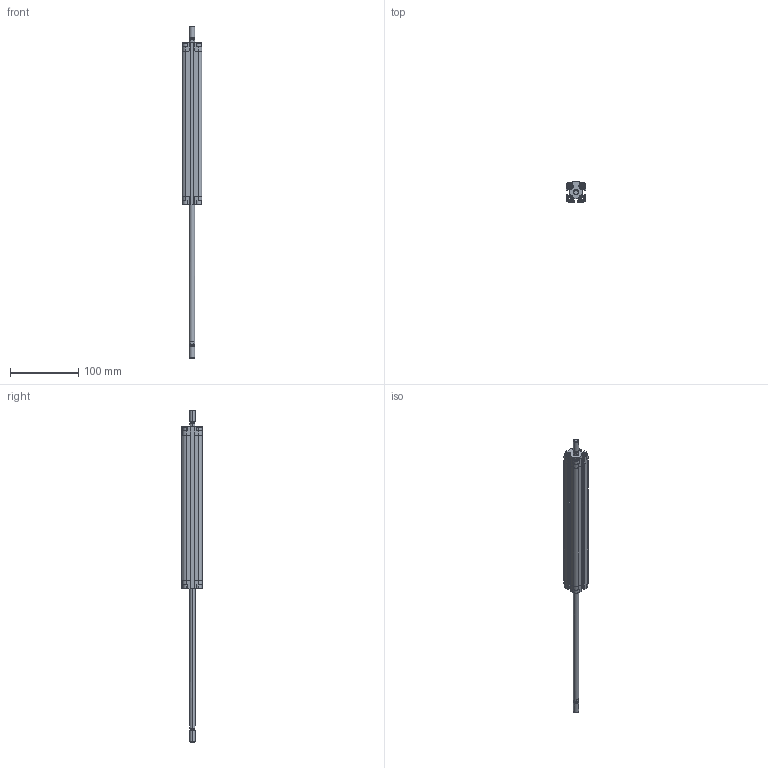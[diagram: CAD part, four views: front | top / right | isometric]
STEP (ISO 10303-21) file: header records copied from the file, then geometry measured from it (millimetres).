
FILE_DESCRIPTION (( 'STEP AP203' ), '1' );
FILE_NAME ('CDVU16-200M-P.STEP', '2020-07-21T15:06:08', ( '' ), ( '' ), 'SwSTEP 2.0', 'SolidWorks 2019', '' );
FILE_SCHEMA (( 'CONFIG_CONTROL_DESIGN' ));
Length unit declared in the file: millimetre
Products named in the file (1): CDVU16-200M-P
Bounding box: 29 x 30 x 487 mm (x, y, z)
Volume: 129215.2 mm3; surface area: 78893.8 mm2
Topology: 2 solids, 2 shells, 566 faces, 1504 edges, 978 vertices
Faces by surface type: plane 338, cylinder 164, cone 48, torus 16
Entity records: 17771 total; most frequent: CARTESIAN_POINT 3621, ORIENTED_EDGE 3000, DIRECTION 2850, EDGE_CURVE 1500, VERTEX_POINT 978, AXIS2_PLACEMENT_3D 975, LINE 900, VECTOR 900
